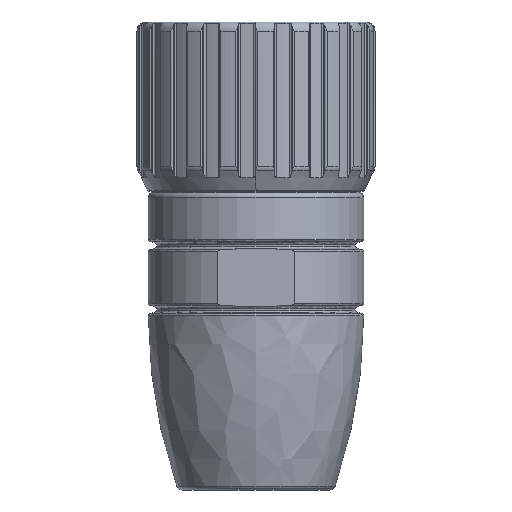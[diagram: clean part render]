
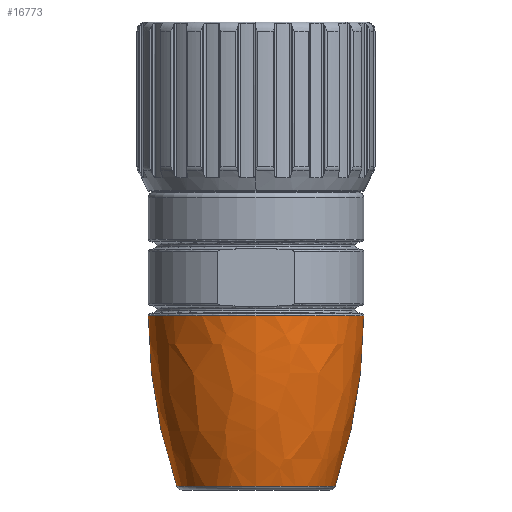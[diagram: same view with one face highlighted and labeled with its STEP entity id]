
A CAD part, left-side view. The second image highlights one B-rep face of the part: STEP entity #16773.
In plain terms, the highlighted free-form (B-spline) face has degree [3, 3] with [4, 4] control points.
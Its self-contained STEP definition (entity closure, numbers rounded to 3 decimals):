
#4651=CARTESIAN_POINT('',(0.,0.,-14.354));
#4652=DIRECTION('',(0.,0.,-1.));
#4653=DIRECTION('',(0.,-1.,0.));
#4654=AXIS2_PLACEMENT_3D('',#4651,#4652,#4653);
#4661=CARTESIAN_POINT('',(0.,46.41,-14.2));
#4662=DIRECTION('',(1.,0.,0.));
#4663=DIRECTION('',(0.,-1.,-0.003));
#4664=AXIS2_PLACEMENT_3D('',#4661,#4662,#4663);
#4666=CARTESIAN_POINT('',(0.,-46.41,-14.2));
#4667=DIRECTION('',(-1.,0.,0.));
#4668=DIRECTION('',(0.,1.,-0.003));
#4669=AXIS2_PLACEMENT_3D('',#4666,#4667,#4668);
#4691=CARTESIAN_POINT('',(0.,0.,-32.994));
#4692=DIRECTION('',(0.,0.,-1.));
#4693=DIRECTION('',(0.,-1.,0.));
#4694=AXIS2_PLACEMENT_3D('',#4691,#4692,#4693);
#10103=CARTESIAN_POINT('',(0.,8.64,
-32.994));
#10104=CARTESIAN_POINT('',(0.,-8.64,
-32.994));
#10105=VERTEX_POINT('',#10103);
#10106=VERTEX_POINT('',#10104);
#10147=CARTESIAN_POINT('',(0.,11.76,
-14.354));
#10148=CARTESIAN_POINT('',(0.,-11.76,
-14.354));
#10149=VERTEX_POINT('',#10147);
#10150=VERTEX_POINT('',#10148);
#16747=CARTESIAN_POINT('',(0.,8.64,-32.994));
#16748=CARTESIAN_POINT('',(0.,10.694,-26.979));
#16749=CARTESIAN_POINT('',(0.,11.743,-20.71));
#16750=CARTESIAN_POINT('',(0.,11.76,-14.354));
#16751=CARTESIAN_POINT('',(-17.281,8.64,
-32.994));
#16752=CARTESIAN_POINT('',(-21.388,10.694,
-26.979));
#16753=CARTESIAN_POINT('',(-23.486,11.743,
-20.71));
#16754=CARTESIAN_POINT('',(-23.52,11.76,
-14.354));
#16755=CARTESIAN_POINT('',(-17.281,-8.64,
-32.994));
#16756=CARTESIAN_POINT('',(-21.388,-10.694,
-26.979));
#16757=CARTESIAN_POINT('',(-23.486,-11.743,
-20.71));
#16758=CARTESIAN_POINT('',(-23.52,-11.76,
-14.354));
#16759=CARTESIAN_POINT('',(0.,-8.64,-32.994));
#16760=CARTESIAN_POINT('',(0.,-10.694,-26.979));
#16761=CARTESIAN_POINT('',(0.,-11.743,-20.71));
#16762=CARTESIAN_POINT('',(0.,-11.76,-14.354));
#16763=(BOUNDED_SURFACE()B_SPLINE_SURFACE(3,3,((#16747,#16748,#16749,#16750),(
#16751,#16752,#16753,#16754),(#16755,#16756,#16757,#16758),(#16759,#16760,
#16761,#16762)),.UNSPECIFIED.,.F.,.F.,.F.)B_SPLINE_SURFACE_WITH_KNOTS((4,4),(4,
4),(0.,1.),(0.,1.),.UNSPECIFIED.)GEOMETRIC_REPRESENTATION_ITEM()RATIONAL_B_SPLINE_SURFACE(((2.013,1.996,1.996,
2.013),(0.671,0.665,0.665,
0.671),(0.671,0.665,0.665,
0.671),(2.013,1.996,1.996,
2.013)))REPRESENTATION_ITEM('')SURFACE());
#16764=ORIENTED_EDGE('',*,*,#16740,.F.);
#16766=ORIENTED_EDGE('',*,*,#16765,.T.);
#16768=ORIENTED_EDGE('',*,*,#16767,.T.);
#16770=ORIENTED_EDGE('',*,*,#16769,.F.);
#16771=EDGE_LOOP('',(#16764,#16766,#16768,#16770));
#16772=FACE_OUTER_BOUND('',#16771,.F.);
#16773=ADVANCED_FACE('',(#16772),#16763,.T.);
#4655=CIRCLE('',#4654,11.76);
#4665=CIRCLE('',#4664,58.17);
#4670=CIRCLE('',#4669,58.17);
#4695=CIRCLE('',#4694,8.64);
#16740=EDGE_CURVE('',#10150,#10149,#4655,.T.);
#16765=EDGE_CURVE('',#10150,#10106,#4665,.T.);
#16767=EDGE_CURVE('',#10106,#10105,#4695,.T.);
#16769=EDGE_CURVE('',#10149,#10105,#4670,.T.);
